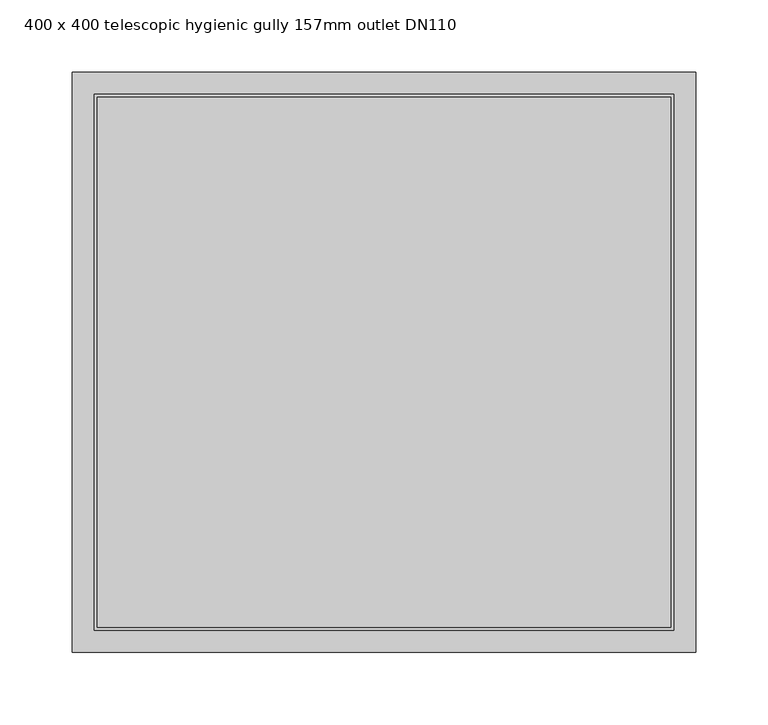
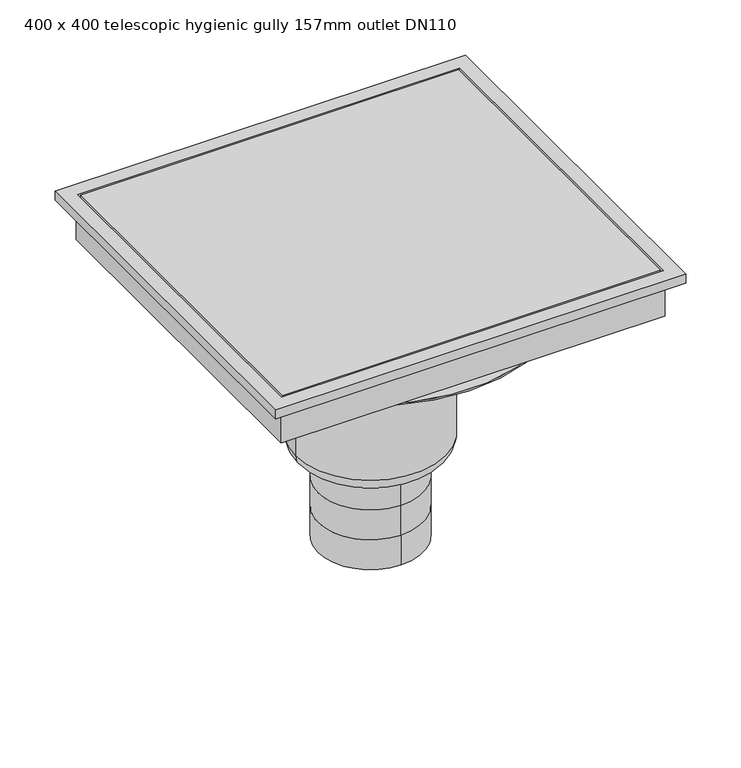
"""IFC4 building model written with IfcOpenShell, lengths in millimetres: sanitary terminal geometry, PF_ST_UN_Siphon telescopics eskis hygiene first_ACO : 400 x 400 telescopic hygienic gully 157mm outlet DN110."""

from ifc_helpers import new_model, si_unit, point, frame, origin, origin_2d, place, context, project, spatial, polyline, circle_curve, ellipse_curve, trimmed, segment, composite_curve, outline, extrude, faceted_brep, source, transform, mapped, element, save
from ifc_brep_helpers import plane_surface, cylinder_surface, revolved_surface, advanced_brep


def sanitary_terminal_400_x_400_telescopic_hygienic_gully_157mm_8142cd22(model_context):
    return source(origin(), model_context, "Body", "SolidModel", [
        extrude(outline(composite_curve([segment(trimmed(circle_curve(origin_2d(), 71.5), [point((-71.5, 0.0))], [point((71.5, 0.0))], False, "CARTESIAN"), True, "CONTINUOUS"), segment(trimmed(circle_curve(origin_2d(), 71.5), [point((71.5, 0.0))], [point((-71.5, 0.0))], False, "CARTESIAN"), True, "CONTINUOUS")], self_intersect=False)), frame((0.0, 0.0, -237.0), z_axis=(0.0, 0.0, 1.0), x_axis=(1.0, 0.0, 0.0)), (0.0, 0.0, 1.0), 67.0),
        faceted_brep([(215.0, 200.0, -130.0), (215.0, 200.0, -120.0), (215.0, -200.0, -120.0), (215.0, -200.0, -130.0), (201.0, 186.0, -170.0), (201.0, 186.0, -130.0), (201.0, -186.0, -130.0), (201.0, -186.0, -170.0), (200.0, -185.0, -120.0), (200.0, 185.0, -120.0), (200.0, 185.0, -160.0), (200.0, -185.0, -160.0), (-215.0, -200.0, -120.0), (-215.0, -200.0, -130.0), (-201.0, -186.0, -130.0), (-201.0, -186.0, -170.0), (-200.0, -185.0, -120.0), (-200.0, -185.0, -160.0), (-215.0, 200.0, -120.0), (-215.0, 200.0, -130.0), (-201.0, 186.0, -130.0), (-201.0, 186.0, -170.0), (-200.0, 185.0, -120.0), (-200.0, 185.0, -160.0)], [[[0, 1, 2, 3]], [[4, 5, 6, 7]], [[8, 9, 10, 11]], [[3, 2, 12, 13]], [[7, 6, 14, 15]], [[16, 8, 11, 17]], [[13, 12, 18, 19]], [[15, 14, 20, 21]], [[22, 16, 17, 23]], [[2, 1, 18, 12], [9, 8, 16, 22]], [[1, 0, 19, 18]], [[0, 3, 13, 19], [6, 5, 20, 14]], [[5, 4, 21, 20]], [[4, 7, 15, 21]], [[9, 22, 23, 10]], [[11, 10, 23, 17]]]),
        extrude(outline(polyline([(198.0, 183.0), (198.0, -183.0), (-198.0, -183.0), (-198.0, 183.0), (198.0, 183.0)])), frame((0.0, 0.0, -160.0), z_axis=(0.0, 0.0, 1.0), x_axis=(1.0, 0.0, 0.0)), (0.0, 0.0, 1.0), 40.0),
        advanced_brep(
        [(0.0, -55.0, -455.0), (0.0, 55.0, -455.0), (0.0, -55.0, -422.0), (0.0, 55.0, -422.0), (0.0, -55.0, -389.0), (0.0, 55.0, -389.0), (0.0, 55.0, -356.0), (55.0, 0.0, -356.0), (0.0, -55.0, -356.0), (-55.0, 0.0, -356.0), (78.5, 0.0, -339.5), (-78.5, 0.0, -339.5), (-78.5, 0.0, -187.0), (78.5, 0.0, -187.0), (62.0, 0.0, -356.0), (-62.0, 0.0, -356.0), (-179.0, 0.0, -187.0), (179.0, 0.0, -187.0), (-179.0, 0.0, -185.0), (179.0, 0.0, -185.0)],
        [
            (0, 1, circle_curve(frame((0.0, 0.0, -455.0), z_axis=(0.0, 0.0, -1.0), x_axis=(0.0, 1.0, 0.0)), 55.0)),
            (1, 0, circle_curve(frame((0.0, 0.0, -455.0), z_axis=(0.0, 0.0, -1.0), x_axis=(0.0, 1.0, 0.0)), 55.0)),
            (0, 2),
            (2, 3, circle_curve(frame((0.0, 0.0, -422.0), z_axis=(0.0, 0.0, -1.0), x_axis=(0.0, 1.0, 0.0)), 55.0)),
            (3, 1),
            (3, 2, circle_curve(frame((0.0, 0.0, -422.0), z_axis=(0.0, 0.0, -1.0), x_axis=(0.0, 1.0, 0.0)), 55.0)),
            (4, 2),
            (3, 5),
            (5, 4, circle_curve(frame((0.0, 0.0, -389.0), z_axis=(0.0, 0.0, -1.0), x_axis=(1.0, 0.0, 0.0)), 55.0)),
            (4, 5, circle_curve(frame((0.0, 0.0, -389.0), z_axis=(0.0, 0.0, -1.0), x_axis=(-1.0, 0.0, 0.0)), 55.0)),
            (5, 6),
            (6, 7, circle_curve(frame((0.0, 0.0, -356.0), z_axis=(0.0, 0.0, -1.0), x_axis=(0.0, 1.0, 0.0)), 55.0)),
            (7, 8, circle_curve(frame((0.0, 0.0, -356.0), z_axis=(0.0, 0.0, -1.0), x_axis=(0.0, 1.0, 0.0)), 55.0)),
            (8, 4),
            (8, 9, circle_curve(frame((0.0, 0.0, -356.0), z_axis=(0.0, 0.0, -1.0), x_axis=(0.0, 1.0, 0.0)), 55.0)),
            (9, 6, circle_curve(frame((0.0, 0.0, -356.0), z_axis=(0.0, 0.0, -1.0), x_axis=(0.0, 1.0, 0.0)), 55.0)),
            (10, 11, circle_curve(frame((0.0, 0.0, -339.5), z_axis=(0.0, 0.0, 1.0), x_axis=(-1.0, 0.0, 0.0)), 78.5)),
            (11, 12),
            (12, 13, circle_curve(frame((0.0, 0.0, -187.0), z_axis=(0.0, 0.0, -1.0), x_axis=(-1.0, 0.0, 0.0)), 78.5)),
            (13, 10),
            (11, 10, circle_curve(frame((0.0, 0.0, -339.5), z_axis=(0.0, 0.0, 1.0), x_axis=(-1.0, 0.0, 0.0)), 78.5)),
            (13, 12, circle_curve(frame((0.0, 0.0, -187.0), z_axis=(0.0, 0.0, -1.0), x_axis=(-1.0, 0.0, 0.0)), 78.5)),
            (10, 14, circle_curve(frame((62.0, 0.0, -339.5), z_axis=(0.0, 1.0, 0.0), x_axis=(-1.0, 0.0, 0.0)), 16.5)),
            (14, 15, circle_curve(frame((0.0, 0.0, -356.0), z_axis=(0.0, 0.0, 1.0), x_axis=(-1.0, 0.0, 0.0)), 62.0)),
            (15, 11, circle_curve(frame((-62.0, 0.0, -339.5), z_axis=(0.0, 1.0, 0.0), x_axis=(1.0, 0.0, 0.0)), 16.5)),
            (15, 14, circle_curve(frame((0.0, 0.0, -356.0), z_axis=(0.0, 0.0, 1.0), x_axis=(-1.0, 0.0, 0.0)), 62.0)),
            (14, 7),
            (9, 15),
            (16, 17, circle_curve(frame((0.0, 0.0, -187.0), z_axis=(0.0, 0.0, -1.0), x_axis=(1.0, 0.0, 0.0)), 179.0)),
            (17, 16, circle_curve(frame((0.0, 0.0, -187.0), z_axis=(0.0, 0.0, -1.0), x_axis=(1.0, 0.0, 0.0)), 179.0)),
            (18, 19, circle_curve(frame((0.0, 0.0, -185.0), z_axis=(0.0, 0.0, 1.0), x_axis=(1.0, 0.0, 0.0)), 179.0)),
            (19, 18, circle_curve(frame((0.0, 0.0, -185.0), z_axis=(0.0, 0.0, 1.0), x_axis=(1.0, 0.0, 0.0)), 179.0)),
            (17, 19),
            (18, 16),
        ],
        [
            plane_surface(frame((0.0, 55.0, -455.0), z_axis=(0.0, 0.0, -1.0), x_axis=(1.0, 0.0, 0.0))),
            cylinder_surface(frame((0.0, 0.0, -422.0), z_axis=(0.0, 0.0, -1.0), x_axis=(0.0, 1.0, 0.0)), 55.0),
            cylinder_surface(frame((0.0, 0.0, -389.0), z_axis=(0.0, 0.0, -1.0), x_axis=(1.0, 0.0, 0.0)), 55.0),
            cylinder_surface(frame((0.0, 0.0, -389.0), z_axis=(0.0, 0.0, -1.0), x_axis=(-1.0, 0.0, 0.0)), 55.0),
            cylinder_surface(frame((0.0, 0.0, -356.0), z_axis=(0.0, 0.0, -1.0), x_axis=(0.0, 1.0, 0.0)), 55.0),
            cylinder_surface(frame((0.0, 0.0, -125.0), z_axis=(0.0, 0.0, -1.0), x_axis=(-1.0, 0.0, 0.0)), 78.5),
            revolved_surface(trimmed(ellipse_curve(frame((-62.0, 0.0, -339.5), z_axis=(0.0, -1.0, 0.0), x_axis=(1.0, 0.0, 0.0)), 16.5, 16.5), [point((-78.5, 0.0, -339.5))], [point((-62.0, 0.0, -356.0))], True, "CARTESIAN"), (0.0, 0.0, -125.0), (0.0, 0.0, -1.0)),
            plane_surface(frame((0.0, 0.0, -356.0), z_axis=(0.0, 0.0, -1.0), x_axis=(-1.0, 0.0, 0.0))),
            plane_surface(frame((179.0, 0.0, -187.0), z_axis=(0.0, 0.0, -1.0), x_axis=(0.0, -1.0, 0.0))),
            plane_surface(frame((179.0, 0.0, -185.0), z_axis=(0.0, 0.0, 1.0), x_axis=(0.0, 1.0, 0.0))),
            cylinder_surface(frame((0.0, 0.0, -187.0), z_axis=(0.0, 0.0, 1.0), x_axis=(1.0, 0.0, 0.0)), 179.0),
        ],
        [
            (0, [[1, 2]]),
            (1, [[-1, 3, 4, 5]]),
            (1, [[-2, -5, 6, -3]]),
            (2, [[7, -6, 8, 9]]),
            (3, [[-7, 10, -8, -4]]),
            (4, [[11, 12, 13, 14, -9]]),
            (4, [[-11, -10, -14, 15, 16]]),
            (5, [[17, 18, 19, 20]]),
            (5, [[-18, 21, -20, 22]]),
            (6, [[-17, 23, 24, 25]]),
            (6, [[-21, -25, 26, -23]]),
            (7, [[-24, 27, -12, -16, 28]]),
            (7, [[-26, -28, -15, -13, -27]]),
            (8, [[29, 30], [-19, -22]]),
            (9, [[31, 32]]),
            (10, [[-30, 33, -31, 34]]),
            (10, [[-29, -34, -32, -33]]),
        ],
    ),
    ])


if __name__ == "__main__":
    model = new_model("IFC4")
    model_context = context("Model", 3, world=origin())
    ifc_project = project(units=[si_unit("LENGTHUNIT", "METRE", prefix="MILLI")], contexts=[model_context])
    site = spatial("IfcSite", under=ifc_project)
    building = spatial("IfcBuilding", under=site)
    placement = place(None, origin())
    sanitary_terminal_400_x_400_telescopic_hygienic_gully_157mm_shape = sanitary_terminal_400_x_400_telescopic_hygienic_gully_157mm_8142cd22(model_context)
    element("IfcSanitaryTerminal", 1, ObjectType="PF_ST_UN_Siphon telescopics eskis hygiene first_ACO : 400 x 400 telescopic hygienic gully 157mm outlet DN110", at=placement, inside=building, context=model_context, shape_type="MappedRepresentation", body=[
        mapped(sanitary_terminal_400_x_400_telescopic_hygienic_gully_157mm_shape, transform((0.0, 0.0, 0.0), x_axis=(1.0, 0.0, 0.0), y_axis=(0.0, 1.0, 0.0), z_axis=(0.0, 0.0, 1.0))),
    ])
    save(model, "model.ifc")
